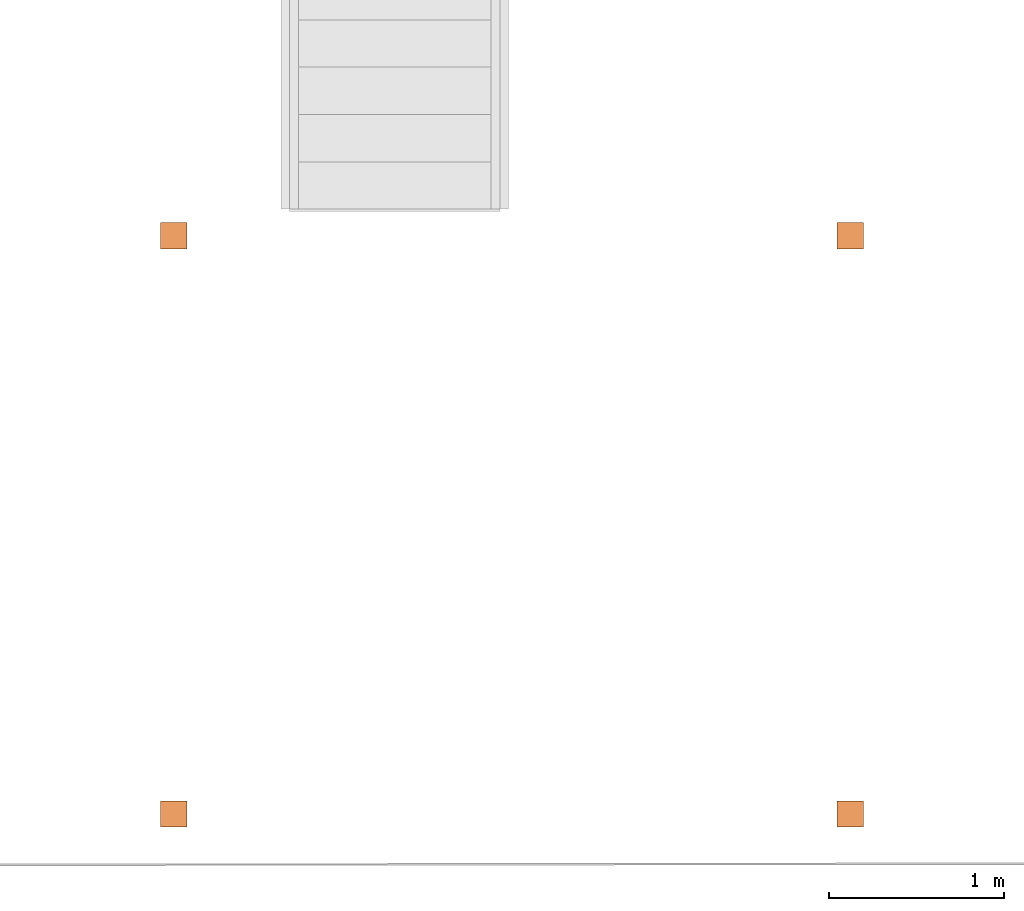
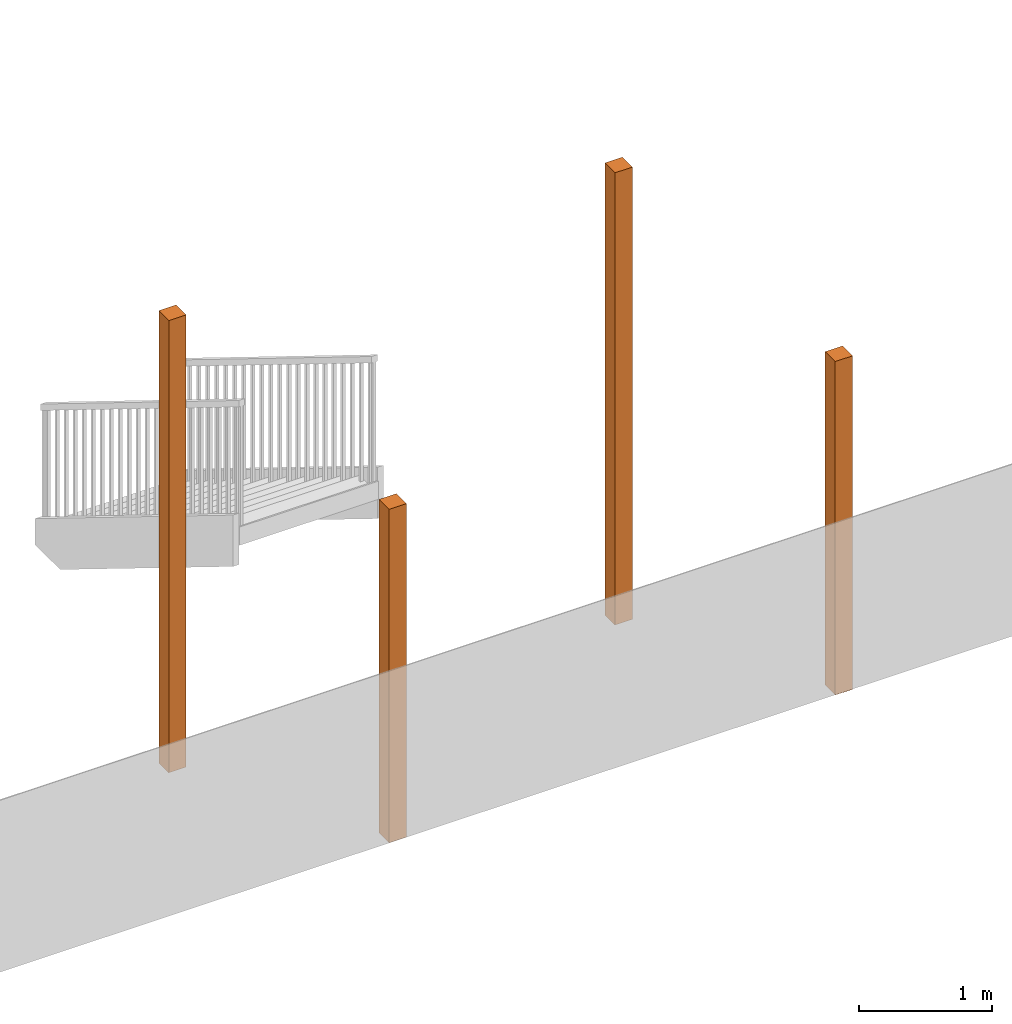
# One storey, part 11 of 16: 1 proxy.
"""IFC2X3 building model written with IfcOpenShell, lengths in millimetres."""

from ifc_helpers import new_model, entity, si_unit, converted_unit, derived_unit, direction, frame, origin, origin_2d_with_axis, place, context, subcontext, project, spatial, rectangle, extrude, source, transform, mapped, material, type_object, type_shapes, element, save


model = new_model("IFC2X3")

# Units and contexts
model_context = context("Model", 3, precision=0.01, world=origin(), true_north=direction((4.05803320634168e-15, -1.0)))
body_context = subcontext(model_context, "Body", "Model", "MODEL_VIEW")
ifc_project = project(units=[si_unit("LENGTHUNIT", "METRE", prefix="MILLI"), si_unit("AREAUNIT", "SQUARE_METRE"), si_unit("VOLUMEUNIT", "CUBIC_METRE"), converted_unit("PLANEANGLEUNIT", "DEGREE", entity("IfcRatioMeasure", 0.0174532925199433), si_unit("PLANEANGLEUNIT", "RADIAN"), dimensions=[0, 0, 0, 0, 0, 0, 0]), si_unit("MASSUNIT", "GRAM", prefix="KILO"), derived_unit("MASSDENSITYUNIT", [(si_unit("MASSUNIT", "GRAM", prefix="KILO"), 1), (si_unit("LENGTHUNIT", "METRE"), -3)]), si_unit("TIMEUNIT", "SECOND"), si_unit("FREQUENCYUNIT", "HERTZ"), si_unit("THERMODYNAMICTEMPERATUREUNIT", "DEGREE_CELSIUS"), derived_unit("THERMALTRANSMITTANCEUNIT", [(si_unit("MASSUNIT", "GRAM", prefix="KILO"), 1), (si_unit("THERMODYNAMICTEMPERATUREUNIT", "KELVIN"), -1), (si_unit("TIMEUNIT", "SECOND"), -3)]), derived_unit("VOLUMETRICFLOWRATEUNIT", [(si_unit("LENGTHUNIT", "METRE"), 3), (si_unit("TIMEUNIT", "SECOND"), -1)]), si_unit("ELECTRICCURRENTUNIT", "AMPERE"), si_unit("ELECTRICVOLTAGEUNIT", "VOLT"), si_unit("POWERUNIT", "WATT"), si_unit("FORCEUNIT", "NEWTON", prefix="KILO"), si_unit("ILLUMINANCEUNIT", "LUX"), si_unit("LUMINOUSFLUXUNIT", "LUMEN"), si_unit("LUMINOUSINTENSITYUNIT", "CANDELA"), derived_unit("USERDEFINED", [(si_unit("MASSUNIT", "GRAM", prefix="KILO"), -1), (si_unit("LENGTHUNIT", "METRE"), -2), (si_unit("TIMEUNIT", "SECOND"), 3), (si_unit("LUMINOUSFLUXUNIT", "LUMEN"), 1)]), derived_unit("LINEARVELOCITYUNIT", [(si_unit("LENGTHUNIT", "METRE"), 1), (si_unit("TIMEUNIT", "SECOND"), -1)]), si_unit("PRESSUREUNIT", "PASCAL"), derived_unit("USERDEFINED", [(si_unit("LENGTHUNIT", "METRE"), -2), (si_unit("MASSUNIT", "GRAM", prefix="KILO"), 1), (si_unit("TIMEUNIT", "SECOND"), -2)])], contexts=[model_context])

# Site, building, storey
site_placement = place(None, frame((927466.849349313, 583801.882853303, 0.0), z_axis=(0.0, 0.0, 1.0), x_axis=(-1.0, 0.0, 0.0)))
site = spatial("IfcSite", under=ifc_project, at=site_placement, Name="Surface", CompositionType="ELEMENT")
building_placement = place(site_placement, origin())
building = spatial("IfcBuilding", under=site, at=building_placement, CompositionType="ELEMENT")
storey_placement = place(building_placement, frame((0.0, 0.0, 42810.0)))
storey = spatial("IfcBuildingStorey", under=building, at=storey_placement, Name="Hardstand", CompositionType="ELEMENT", Elevation=42810.0)

# Proxy
ifc_material = material(Name="Aluminum, Anodized Silver")
building_element_proxy_type = type_object("IfcBuildingElementProxyType", Name="Generic Models 30", PredefinedType="NOTDEFINED", material=ifc_material)
shared_shape = source(origin(), body_context, "Body", "SweptSolid", [
    extrude(rectangle(XDim=150.000000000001, YDim=150.000000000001, at=origin_2d_with_axis()), frame((-19007.9534395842, 45790.6892055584, 42810.0), z_axis=(0.0, 0.0, 1.0), x_axis=(-1.0, 0.0, 0.0)), (0.0, 0.0, 1.0), 4136.36031050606),
    extrude(rectangle(XDim=150.000000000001, YDim=150.000000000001, at=origin_2d_with_axis()), frame((-22868.883487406, 45790.6892055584, 42810.0), z_axis=(0.0, 0.0, 1.0), x_axis=(-1.0, 0.0, 0.0)), (0.0, 0.0, 1.0), 4136.36031050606),
    extrude(rectangle(XDim=150.000000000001, YDim=150.000000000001, at=origin_2d_with_axis()), frame((-19007.9534395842, 49090.6892055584, 44170.0), z_axis=(0.0, 0.0, 1.0), x_axis=(-1.0, 0.0, 0.0)), (0.0, 0.0, 1.0), 3050.78889940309),
    extrude(rectangle(XDim=150.000000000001, YDim=150.000000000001, at=origin_2d_with_axis()), frame((-22868.883487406, 49090.6892055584, 44170.0), z_axis=(0.0, 0.0, 1.0), x_axis=(-1.0, 0.0, 0.0)), (0.0, 0.0, 1.0), 3050.78889940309),
])
type_shapes(building_element_proxy_type, [shared_shape])
proxy_placement = place(storey_placement, frame((0.0, 0.0, -42810.0)))
element("IfcBuildingElementProxy", 1, at=proxy_placement, inside=storey, type_object=building_element_proxy_type, material=ifc_material, Name="Generic Models 30:Generic Models 30", ObjectType="Generic Models 30", context=body_context, shape_type="MappedRepresentation", body=[
    mapped(shared_shape, transform((0.0, 0.0, 0.0), scale=1.0)),
])

save(model, "model.ifc")
